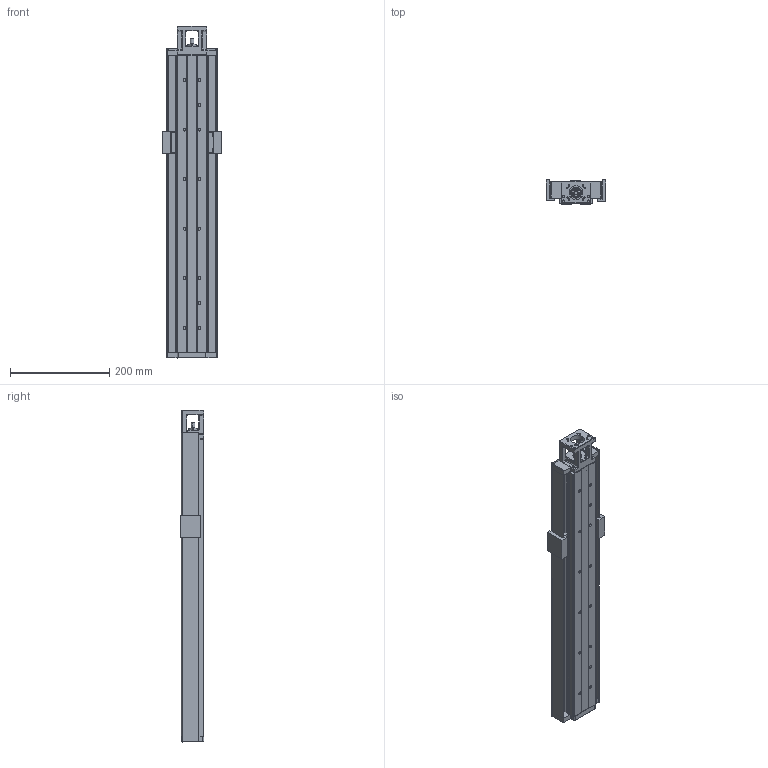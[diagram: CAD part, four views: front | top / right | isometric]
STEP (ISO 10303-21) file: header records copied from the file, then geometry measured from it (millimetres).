
FILE_DESCRIPTION (( 'STEP AP203' ), '1' );
FILE_NAME ('hkk60-600a1f0s.STEP', '2019-10-31T03:37:42', ( '微软用户' ), ( '微软中国' ), 'SwSTEP 2.0', 'SolidWorks 2016', '' );
FILE_SCHEMA (( 'CONFIG_CONTROL_DESIGN' ));
Products named in the file (3): hkk60-600a1f0s_1; hkk60賑怢_11; hkk60-600a1f0s
Assembly tree (2 placements, depth 2):
  hkk60-600a1f0s
    hkk60-600a1f0s_1
    hkk60賑怢_11
Bounding box: 121 x 48 x 670 mm (x, y, z)
Volume: 1024554.9 mm3; surface area: 467658.2 mm2
Topology: 45 solids, 53 shells, 1453 faces, 3670 edges, 2228 vertices
Faces by surface type: cylinder 538, plane 488, cone 216, bspline 211
Entity records: 62555 total; most frequent: CARTESIAN_POINT 29247, ORIENTED_EDGE 7012, DIRECTION 6511, EDGE_CURVE 3506, AXIS2_PLACEMENT_3D 2381, VERTEX_POINT 2228, VECTOR 1749, LINE 1749
